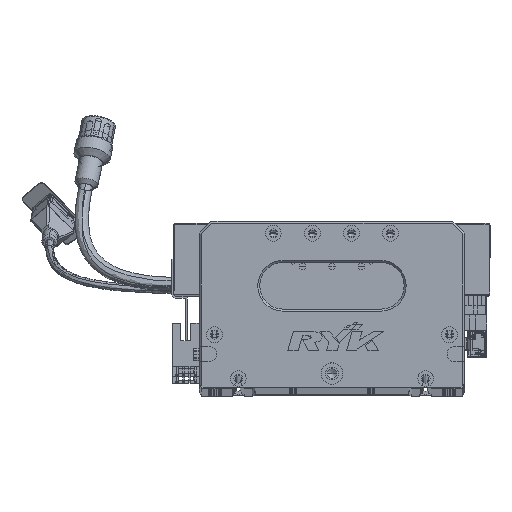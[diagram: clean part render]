
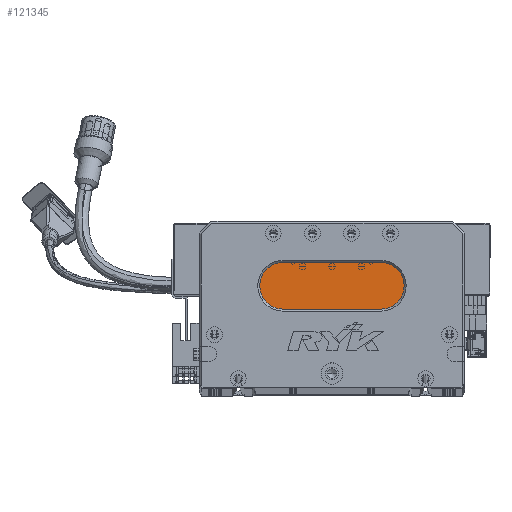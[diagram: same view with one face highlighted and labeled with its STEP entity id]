
A CAD part, top view. The second image highlights one B-rep face of the part: STEP entity #121345.
In plain terms, the highlighted planar face has unit normal (0, 0, 1) as drawn and (0, 0, -1) by its records, which use the part's own axes.
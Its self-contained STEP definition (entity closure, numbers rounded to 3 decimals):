
#4487 = DIRECTION ( 'NONE',  ( -1., 0., 0. ) ) ;
#13533 = VERTEX_POINT ( 'NONE', #84328 ) ;
#17531 = LINE ( 'NONE', #80836, #117129 ) ;
#19116 = EDGE_CURVE ( 'NONE', #90881, #105302, #17531, .T. ) ;
#23324 = AXIS2_PLACEMENT_3D ( 'NONE', #96293, #57482, #114886 ) ;
#24604 = EDGE_CURVE ( 'NONE', #49459, #13533, #59146, .T. ) ;
#24647 = CIRCLE ( 'NONE', #23324, 12. ) ;
#25122 = CARTESIAN_POINT ( 'NONE',  ( 93., 40., 13. ) ) ;
#32814 = CARTESIAN_POINT ( 'NONE',  ( 93., 64., 13. ) ) ;
#33083 = CARTESIAN_POINT ( 'NONE',  ( 43., 52., 13. ) ) ;
#38759 = EDGE_LOOP ( 'NONE', ( #105439, #40971, #82405, #109909, #70875 ) ) ;
#40971 = ORIENTED_EDGE ( 'NONE', *, *, #24604, .T. ) ;
#45350 = CARTESIAN_POINT ( 'NONE',  ( 93., 52., 13. ) ) ;
#49459 = VERTEX_POINT ( 'NONE', #60323 ) ;
#55450 = DIRECTION ( 'NONE',  ( 0., 0., -1. ) ) ;
#57482 = DIRECTION ( 'NONE',  ( 0., 0., -1. ) ) ;
#58777 = AXIS2_PLACEMENT_3D ( 'NONE', #33083, #89637, #92138 ) ;
#59146 = LINE ( 'NONE', #25122, #84765 ) ;
#60323 = CARTESIAN_POINT ( 'NONE',  ( 93., 40., 13. ) ) ;
#60819 = CARTESIAN_POINT ( 'NONE',  ( 43., 52., 13. ) ) ;
#61752 = EDGE_CURVE ( 'NONE', #13533, #104446, #89323, .T. ) ;
#64286 = PLANE ( 'NONE',  #116652 ) ;
#69660 = AXIS2_PLACEMENT_3D ( 'NONE', #60819, #109009, #80179 ) ;
#70875 = ORIENTED_EDGE ( 'NONE', *, *, #19116, .T. ) ;
#71389 = CIRCLE ( 'NONE', #69660, 12. ) ;
#80179 = DIRECTION ( 'NONE',  ( -1., 0., 0. ) ) ;
#80836 = CARTESIAN_POINT ( 'NONE',  ( 93., 64., 13. ) ) ;
#82405 = ORIENTED_EDGE ( 'NONE', *, *, #61752, .T. ) ;
#84328 = CARTESIAN_POINT ( 'NONE',  ( 43., 40., 13. ) ) ;
#84765 = VECTOR ( 'NONE', #4487, 1000. ) ;
#85004 = EDGE_CURVE ( 'NONE', #105302, #49459, #24647, .T. ) ;
#85780 = DIRECTION ( 'NONE',  ( -1., 0., 0. ) ) ;
#89323 = CIRCLE ( 'NONE', #58777, 12. ) ;
#89637 = DIRECTION ( 'NONE',  ( 0., 0., -1. ) ) ;
#90881 = VERTEX_POINT ( 'NONE', #104060 ) ;
#92138 = DIRECTION ( 'NONE',  ( -1., 0., 0. ) ) ;
#96293 = CARTESIAN_POINT ( 'NONE',  ( 93., 52., 13. ) ) ;
#98288 = DIRECTION ( 'NONE',  ( 1., 0., 0. ) ) ;
#104060 = CARTESIAN_POINT ( 'NONE',  ( 43., 64., 13. ) ) ;
#104446 = VERTEX_POINT ( 'NONE', #113171 ) ;
#105302 = VERTEX_POINT ( 'NONE', #32814 ) ;
#105439 = ORIENTED_EDGE ( 'NONE', *, *, #85004, .T. ) ;
#109009 = DIRECTION ( 'NONE',  ( 0., 0., -1. ) ) ;
#109055 = EDGE_CURVE ( 'NONE', #104446, #90881, #71389, .T. ) ;
#109909 = ORIENTED_EDGE ( 'NONE', *, *, #109055, .T. ) ;
#113171 = CARTESIAN_POINT ( 'NONE',  ( 31., 52., 13. ) ) ;
#113468 = FACE_OUTER_BOUND ( 'NONE', #38759, .T. ) ;
#114886 = DIRECTION ( 'NONE',  ( -1., 0., 0. ) ) ;
#116652 = AXIS2_PLACEMENT_3D ( 'NONE', #45350, #55450, #85780 ) ;
#117129 = VECTOR ( 'NONE', #98288, 1000. ) ;
#121345 = ADVANCED_FACE ( 'NONE', ( #113468 ), #64286, .T. ) ;
